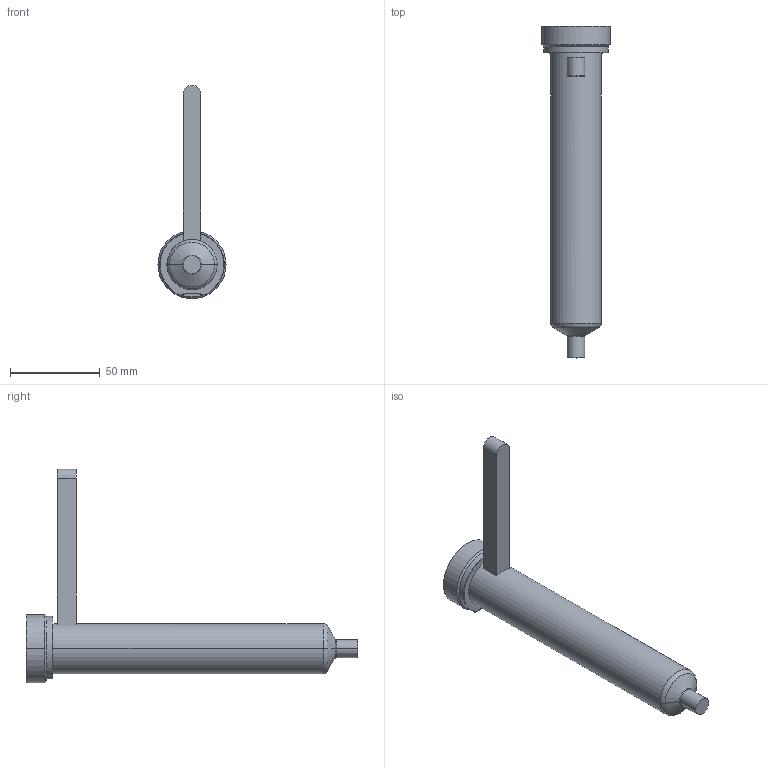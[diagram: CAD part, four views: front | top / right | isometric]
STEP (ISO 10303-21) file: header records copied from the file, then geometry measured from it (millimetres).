
FILE_DESCRIPTION((''),'2;1');
FILE_NAME('EO06_PG-FBE_STD_160_COT','2024-02-19T11:51:10',('sundharh'),(''),'CREO PARAMETRIC BY PTC INC, 2023154','CREO PARAMETRIC BY PTC INC, 2023154','');
FILE_SCHEMA(('CONFIG_CONTROL_DESIGN'));
Length unit declared in the file: millimetre
Products named in the file (1): EO06_PG-FBE_STD_160_COT
Bounding box: 38 x 185 x 119 mm (x, y, z)
Volume: 121755.6 mm3; surface area: 21283.6 mm2
Topology: 1 solids, 1 shells, 31 faces, 67 edges, 40 vertices
Faces by surface type: cylinder 11, plane 9, torus 7, cone 4
Entity records: 963 total; most frequent: CARTESIAN_POINT 230, DIRECTION 159, ORIENTED_EDGE 134, AXIS2_PLACEMENT_3D 67, EDGE_CURVE 67, VERTEX_POINT 40, CIRCLE 36, EDGE_LOOP 33
